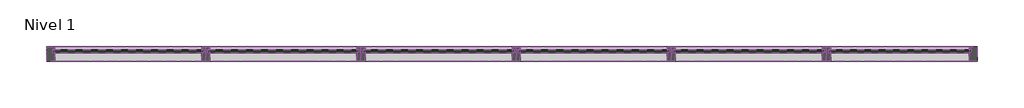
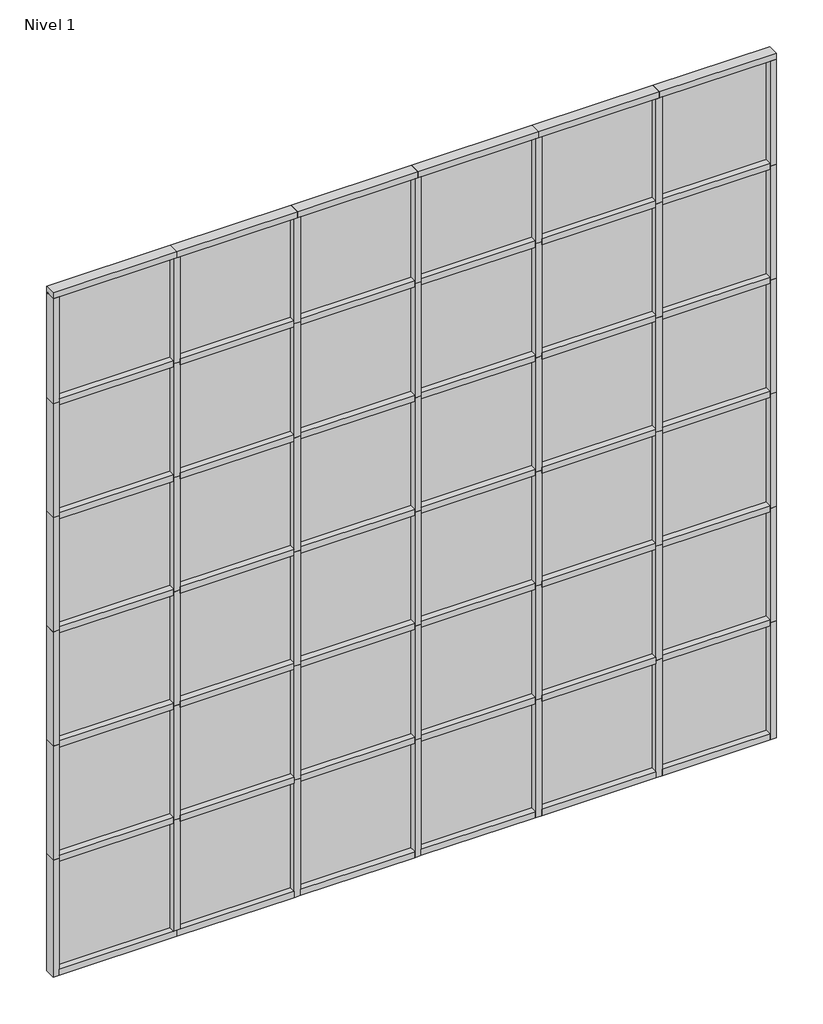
# One storey, part 4 of 6: 84 members, 36 plates.
"""IFC4 building model written with IfcOpenShell, lengths in millimetres."""

from ifc_helpers import new_model, si_unit, origin, place, context, project, spatial, transform, mapped, element, save
from components import montante_rectangular_montante_rectangular_central_30_8_mm_2c331f7a, montante_rectangular_montante_rectangular_central_30_8_mm_c970fd36, montante_rectangular_montante_rectangular_central_30_8_mm_e5800b63, montante_rectangular_montante_rectangular_central_30_8_mm_53c3e57f, montante_rectangular_montante_rectangular_central_30_8_mm_d86f33cf, montante_rectangular_montante_rectangular_central_30_8_mm_2cc1dee6, montante_rectangular_montante_rectangular_extremo_1_30_8_mm_80b4f17c, montante_rectangular_montante_rectangular_extremo_1_30_8_mm_140b2925, montante_rectangular_montante_rectangular_extremo_1_30_8_mm_5074caf2, montante_rectangular_montante_rectangular_extremo_1_30_8_mm_62ab01bd, montante_rectangular_montante_rectangular_extremo_1_30_8_mm_7b62097b, montante_rectangular_montante_rectangular_extremo_1_30_8_mm_4f2bc4b4, plate_e0fb009f, plate_7c9cb06b, plate_31a977c4, plate_dd025fa3

model = new_model("IFC4")

# Units and contexts
model_context = context("Model", 3, world=origin())
ifc_project = project(units=[si_unit("LENGTHUNIT", "METRE", prefix="MILLI")], contexts=[model_context])

# Site, building, storey
site = spatial("IfcSite", under=ifc_project)
building = spatial("IfcBuilding", under=site)
storey = spatial("IfcBuildingStorey", under=building, Name="Nivel 1", Elevation=0.0)

# Members
placement = place(None, origin())
montante_rectangular_montante_rectangular_central_30_8_mm_shape = montante_rectangular_montante_rectangular_central_30_8_mm_2c331f7a(model_context)
element("IfcMember", 1, ObjectType="Montante rectangular : Montante rectangular - Central_30.8 mm", at=placement, inside=storey, context=model_context, shape_type="MappedRepresentation", body=[
    mapped(montante_rectangular_montante_rectangular_central_30_8_mm_shape, transform((-11117.5480244, 4524.4730809, 1540.0), x_axis=(0.0, 0.0, 1.0), y_axis=(0.0, -1.0, 0.0), z_axis=(1.0, 0.0, 0.0))),
])
element("IfcMember", 2, ObjectType="Montante rectangular : Montante rectangular - Central_30.8 mm", at=placement, inside=storey, context=model_context, shape_type="MappedRepresentation", body=[
    mapped(montante_rectangular_montante_rectangular_central_30_8_mm_shape, transform((-9617.5480244, 4524.4730809, 1540.0), x_axis=(0.0, 0.0, 1.0), y_axis=(0.0, -1.0, 0.0), z_axis=(1.0, 0.0, 0.0))),
])
element("IfcMember", 3, ObjectType="Montante rectangular : Montante rectangular - Central_30.8 mm", at=placement, inside=storey, context=model_context, shape_type="MappedRepresentation", body=[
    mapped(montante_rectangular_montante_rectangular_central_30_8_mm_shape, transform((-8117.5480244, 4524.4730809, 1540.0), x_axis=(0.0, 0.0, 1.0), y_axis=(0.0, -1.0, 0.0), z_axis=(1.0, 0.0, 0.0))),
])
element("IfcMember", 4, ObjectType="Montante rectangular : Montante rectangular - Central_30.8 mm", at=placement, inside=storey, context=model_context, shape_type="MappedRepresentation", body=[
    mapped(montante_rectangular_montante_rectangular_central_30_8_mm_shape, transform((-6617.5480244, 4524.4730809, 1540.0), x_axis=(0.0, 0.0, 1.0), y_axis=(0.0, -1.0, 0.0), z_axis=(1.0, 0.0, 0.0))),
])
element("IfcMember", 5, ObjectType="Montante rectangular : Montante rectangular - Central_30.8 mm", at=placement, inside=storey, context=model_context, shape_type="MappedRepresentation", body=[
    mapped(montante_rectangular_montante_rectangular_central_30_8_mm_shape, transform((-5117.5480244, 4524.4730809, 1540.0), x_axis=(0.0, 0.0, 1.0), y_axis=(0.0, -1.0, 0.0), z_axis=(1.0, 0.0, 0.0))),
])
element("IfcMember", 6, ObjectType="Montante rectangular : Montante rectangular - Central_30.8 mm", at=placement, inside=storey, context=model_context, shape_type="MappedRepresentation", body=[
    mapped(montante_rectangular_montante_rectangular_central_30_8_mm_shape, transform((-11117.5480244, 4524.4730809, 3040.0), x_axis=(0.0, 0.0, 1.0), y_axis=(0.0, -1.0, 0.0), z_axis=(1.0, 0.0, 0.0))),
])
element("IfcMember", 7, ObjectType="Montante rectangular : Montante rectangular - Central_30.8 mm", at=placement, inside=storey, context=model_context, shape_type="MappedRepresentation", body=[
    mapped(montante_rectangular_montante_rectangular_central_30_8_mm_shape, transform((-9617.5480244, 4524.4730809, 3040.0), x_axis=(0.0, 0.0, 1.0), y_axis=(0.0, -1.0, 0.0), z_axis=(1.0, 0.0, 0.0))),
])
element("IfcMember", 8, ObjectType="Montante rectangular : Montante rectangular - Central_30.8 mm", at=placement, inside=storey, context=model_context, shape_type="MappedRepresentation", body=[
    mapped(montante_rectangular_montante_rectangular_central_30_8_mm_shape, transform((-8117.5480244, 4524.4730809, 3040.0), x_axis=(0.0, 0.0, 1.0), y_axis=(0.0, -1.0, 0.0), z_axis=(1.0, 0.0, 0.0))),
])
element("IfcMember", 9, ObjectType="Montante rectangular : Montante rectangular - Central_30.8 mm", at=placement, inside=storey, context=model_context, shape_type="MappedRepresentation", body=[
    mapped(montante_rectangular_montante_rectangular_central_30_8_mm_shape, transform((-6617.5480244, 4524.4730809, 3040.0), x_axis=(0.0, 0.0, 1.0), y_axis=(0.0, -1.0, 0.0), z_axis=(1.0, 0.0, 0.0))),
])
element("IfcMember", 10, ObjectType="Montante rectangular : Montante rectangular - Central_30.8 mm", at=placement, inside=storey, context=model_context, shape_type="MappedRepresentation", body=[
    mapped(montante_rectangular_montante_rectangular_central_30_8_mm_shape, transform((-5117.5480244, 4524.4730809, 3040.0), x_axis=(0.0, 0.0, 1.0), y_axis=(0.0, -1.0, 0.0), z_axis=(1.0, 0.0, 0.0))),
])
element("IfcMember", 11, ObjectType="Montante rectangular : Montante rectangular - Central_30.8 mm", at=placement, inside=storey, context=model_context, shape_type="MappedRepresentation", body=[
    mapped(montante_rectangular_montante_rectangular_central_30_8_mm_shape, transform((-11117.5480244, 4524.4730809, 4540.0), x_axis=(0.0, 0.0, 1.0), y_axis=(0.0, -1.0, 0.0), z_axis=(1.0, 0.0, 0.0))),
])
element("IfcMember", 12, ObjectType="Montante rectangular : Montante rectangular - Central_30.8 mm", at=placement, inside=storey, context=model_context, shape_type="MappedRepresentation", body=[
    mapped(montante_rectangular_montante_rectangular_central_30_8_mm_shape, transform((-9617.5480244, 4524.4730809, 4540.0), x_axis=(0.0, 0.0, 1.0), y_axis=(0.0, -1.0, 0.0), z_axis=(1.0, 0.0, 0.0))),
])
element("IfcMember", 13, ObjectType="Montante rectangular : Montante rectangular - Central_30.8 mm", at=placement, inside=storey, context=model_context, shape_type="MappedRepresentation", body=[
    mapped(montante_rectangular_montante_rectangular_central_30_8_mm_shape, transform((-8117.5480244, 4524.4730809, 4540.0), x_axis=(0.0, 0.0, 1.0), y_axis=(0.0, -1.0, 0.0), z_axis=(1.0, 0.0, 0.0))),
])
element("IfcMember", 14, ObjectType="Montante rectangular : Montante rectangular - Central_30.8 mm", at=placement, inside=storey, context=model_context, shape_type="MappedRepresentation", body=[
    mapped(montante_rectangular_montante_rectangular_central_30_8_mm_shape, transform((-6617.5480244, 4524.4730809, 4540.0), x_axis=(0.0, 0.0, 1.0), y_axis=(0.0, -1.0, 0.0), z_axis=(1.0, 0.0, 0.0))),
])
element("IfcMember", 15, ObjectType="Montante rectangular : Montante rectangular - Central_30.8 mm", at=placement, inside=storey, context=model_context, shape_type="MappedRepresentation", body=[
    mapped(montante_rectangular_montante_rectangular_central_30_8_mm_shape, transform((-5117.5480244, 4524.4730809, 4540.0), x_axis=(0.0, 0.0, 1.0), y_axis=(0.0, -1.0, 0.0), z_axis=(1.0, 0.0, 0.0))),
])
element("IfcMember", 16, ObjectType="Montante rectangular : Montante rectangular - Central_30.8 mm", at=placement, inside=storey, context=model_context, shape_type="MappedRepresentation", body=[
    mapped(montante_rectangular_montante_rectangular_central_30_8_mm_shape, transform((-11117.5480244, 4524.4730809, 6040.0), x_axis=(0.0, 0.0, 1.0), y_axis=(0.0, -1.0, 0.0), z_axis=(1.0, 0.0, 0.0))),
])
element("IfcMember", 17, ObjectType="Montante rectangular : Montante rectangular - Central_30.8 mm", at=placement, inside=storey, context=model_context, shape_type="MappedRepresentation", body=[
    mapped(montante_rectangular_montante_rectangular_central_30_8_mm_shape, transform((-9617.5480244, 4524.4730809, 6040.0), x_axis=(0.0, 0.0, 1.0), y_axis=(0.0, -1.0, 0.0), z_axis=(1.0, 0.0, 0.0))),
])
element("IfcMember", 18, ObjectType="Montante rectangular : Montante rectangular - Central_30.8 mm", at=placement, inside=storey, context=model_context, shape_type="MappedRepresentation", body=[
    mapped(montante_rectangular_montante_rectangular_central_30_8_mm_shape, transform((-8117.5480244, 4524.4730809, 6040.0), x_axis=(0.0, 0.0, 1.0), y_axis=(0.0, -1.0, 0.0), z_axis=(1.0, 0.0, 0.0))),
])
element("IfcMember", 19, ObjectType="Montante rectangular : Montante rectangular - Central_30.8 mm", at=placement, inside=storey, context=model_context, shape_type="MappedRepresentation", body=[
    mapped(montante_rectangular_montante_rectangular_central_30_8_mm_shape, transform((-6617.5480244, 4524.4730809, 6040.0), x_axis=(0.0, 0.0, 1.0), y_axis=(0.0, -1.0, 0.0), z_axis=(1.0, 0.0, 0.0))),
])
element("IfcMember", 20, ObjectType="Montante rectangular : Montante rectangular - Central_30.8 mm", at=placement, inside=storey, context=model_context, shape_type="MappedRepresentation", body=[
    mapped(montante_rectangular_montante_rectangular_central_30_8_mm_shape, transform((-5117.5480244, 4524.4730809, 6040.0), x_axis=(0.0, 0.0, 1.0), y_axis=(0.0, -1.0, 0.0), z_axis=(1.0, 0.0, 0.0))),
])
element("IfcMember", 21, ObjectType="Montante rectangular : Montante rectangular - Central_30.8 mm", at=placement, inside=storey, context=model_context, shape_type="MappedRepresentation", body=[
    mapped(montante_rectangular_montante_rectangular_central_30_8_mm_shape, transform((-11117.5480244, 4524.4730809, 7540.0), x_axis=(0.0, 0.0, 1.0), y_axis=(0.0, -1.0, 0.0), z_axis=(1.0, 0.0, 0.0))),
])
element("IfcMember", 22, ObjectType="Montante rectangular : Montante rectangular - Central_30.8 mm", at=placement, inside=storey, context=model_context, shape_type="MappedRepresentation", body=[
    mapped(montante_rectangular_montante_rectangular_central_30_8_mm_shape, transform((-9617.5480244, 4524.4730809, 7540.0), x_axis=(0.0, 0.0, 1.0), y_axis=(0.0, -1.0, 0.0), z_axis=(1.0, 0.0, 0.0))),
])
element("IfcMember", 23, ObjectType="Montante rectangular : Montante rectangular - Central_30.8 mm", at=placement, inside=storey, context=model_context, shape_type="MappedRepresentation", body=[
    mapped(montante_rectangular_montante_rectangular_central_30_8_mm_shape, transform((-8117.5480244, 4524.4730809, 7540.0), x_axis=(0.0, 0.0, 1.0), y_axis=(0.0, -1.0, 0.0), z_axis=(1.0, 0.0, 0.0))),
])
element("IfcMember", 24, ObjectType="Montante rectangular : Montante rectangular - Central_30.8 mm", at=placement, inside=storey, context=model_context, shape_type="MappedRepresentation", body=[
    mapped(montante_rectangular_montante_rectangular_central_30_8_mm_shape, transform((-6617.5480244, 4524.4730809, 7540.0), x_axis=(0.0, 0.0, 1.0), y_axis=(0.0, -1.0, 0.0), z_axis=(1.0, 0.0, 0.0))),
])
element("IfcMember", 25, ObjectType="Montante rectangular : Montante rectangular - Central_30.8 mm", at=placement, inside=storey, context=model_context, shape_type="MappedRepresentation", body=[
    mapped(montante_rectangular_montante_rectangular_central_30_8_mm_shape, transform((-5117.5480244, 4524.4730809, 7540.0), x_axis=(0.0, 0.0, 1.0), y_axis=(0.0, -1.0, 0.0), z_axis=(1.0, 0.0, 0.0))),
])
montante_rectangular_montante_rectangular_central_30_8_mm_2_shape = montante_rectangular_montante_rectangular_central_30_8_mm_c970fd36(model_context)
element("IfcMember", 26, ObjectType="Montante rectangular : Montante rectangular - Central_30.8 mm", at=placement, inside=storey, context=model_context, shape_type="MappedRepresentation", body=[
    mapped(montante_rectangular_montante_rectangular_central_30_8_mm_2_shape, transform((-11077.5480244, 4524.4730809, 80.0), x_axis=(1.0, 0.0, 0.0), y_axis=(0.0, -1.0, 0.0), z_axis=(0.0, 0.0, -1.0))),
])
montante_rectangular_montante_rectangular_central_30_8_mm_3_shape = montante_rectangular_montante_rectangular_central_30_8_mm_e5800b63(model_context)
element("IfcMember", 27, ObjectType="Montante rectangular : Montante rectangular - Central_30.8 mm", at=placement, inside=storey, context=model_context, shape_type="MappedRepresentation", body=[
    mapped(montante_rectangular_montante_rectangular_central_30_8_mm_3_shape, transform((-11077.5480244, 4524.4730809, 1540.0), x_axis=(1.0, 0.0, 0.0), y_axis=(0.0, -1.0, 0.0), z_axis=(0.0, 0.0, -1.0))),
])
element("IfcMember", 28, ObjectType="Montante rectangular : Montante rectangular - Central_30.8 mm", at=placement, inside=storey, context=model_context, shape_type="MappedRepresentation", body=[
    mapped(montante_rectangular_montante_rectangular_central_30_8_mm_3_shape, transform((-9577.5480244, 4524.4730809, 1540.0), x_axis=(1.0, 0.0, 0.0), y_axis=(0.0, -1.0, 0.0), z_axis=(0.0, 0.0, -1.0))),
])
element("IfcMember", 29, ObjectType="Montante rectangular : Montante rectangular - Central_30.8 mm", at=placement, inside=storey, context=model_context, shape_type="MappedRepresentation", body=[
    mapped(montante_rectangular_montante_rectangular_central_30_8_mm_3_shape, transform((-8077.5480244, 4524.4730809, 1540.0), x_axis=(1.0, 0.0, 0.0), y_axis=(0.0, -1.0, 0.0), z_axis=(0.0, 0.0, -1.0))),
])
element("IfcMember", 30, ObjectType="Montante rectangular : Montante rectangular - Central_30.8 mm", at=placement, inside=storey, context=model_context, shape_type="MappedRepresentation", body=[
    mapped(montante_rectangular_montante_rectangular_central_30_8_mm_3_shape, transform((-6577.5480244, 4524.4730809, 1540.0), x_axis=(1.0, 0.0, 0.0), y_axis=(0.0, -1.0, 0.0), z_axis=(0.0, 0.0, -1.0))),
])
element("IfcMember", 31, ObjectType="Montante rectangular : Montante rectangular - Central_30.8 mm", at=placement, inside=storey, context=model_context, shape_type="MappedRepresentation", body=[
    mapped(montante_rectangular_montante_rectangular_central_30_8_mm_3_shape, transform((-5077.5480244, 4524.4730809, 1540.0), x_axis=(1.0, 0.0, 0.0), y_axis=(0.0, -1.0, 0.0), z_axis=(0.0, 0.0, -1.0))),
])
element("IfcMember", 32, ObjectType="Montante rectangular : Montante rectangular - Central_30.8 mm", at=placement, inside=storey, context=model_context, shape_type="MappedRepresentation", body=[
    mapped(montante_rectangular_montante_rectangular_central_30_8_mm_3_shape, transform((-11077.5480244, 4524.4730809, 3040.0), x_axis=(1.0, 0.0, 0.0), y_axis=(0.0, -1.0, 0.0), z_axis=(0.0, 0.0, -1.0))),
])
element("IfcMember", 33, ObjectType="Montante rectangular : Montante rectangular - Central_30.8 mm", at=placement, inside=storey, context=model_context, shape_type="MappedRepresentation", body=[
    mapped(montante_rectangular_montante_rectangular_central_30_8_mm_3_shape, transform((-11077.5480244, 4524.4730809, 4540.0), x_axis=(1.0, 0.0, 0.0), y_axis=(0.0, -1.0, 0.0), z_axis=(0.0, 0.0, -1.0))),
])
element("IfcMember", 34, ObjectType="Montante rectangular : Montante rectangular - Central_30.8 mm", at=placement, inside=storey, context=model_context, shape_type="MappedRepresentation", body=[
    mapped(montante_rectangular_montante_rectangular_central_30_8_mm_3_shape, transform((-11077.5480244, 4524.4730809, 6040.0), x_axis=(1.0, 0.0, 0.0), y_axis=(0.0, -1.0, 0.0), z_axis=(0.0, 0.0, -1.0))),
])
element("IfcMember", 35, ObjectType="Montante rectangular : Montante rectangular - Central_30.8 mm", at=placement, inside=storey, context=model_context, shape_type="MappedRepresentation", body=[
    mapped(montante_rectangular_montante_rectangular_central_30_8_mm_3_shape, transform((-9577.5480244, 4524.4730809, 3040.0), x_axis=(1.0, 0.0, 0.0), y_axis=(0.0, -1.0, 0.0), z_axis=(0.0, 0.0, -1.0))),
])
element("IfcMember", 36, ObjectType="Montante rectangular : Montante rectangular - Central_30.8 mm", at=placement, inside=storey, context=model_context, shape_type="MappedRepresentation", body=[
    mapped(montante_rectangular_montante_rectangular_central_30_8_mm_3_shape, transform((-9577.5480244, 4524.4730809, 4540.0), x_axis=(1.0, 0.0, 0.0), y_axis=(0.0, -1.0, 0.0), z_axis=(0.0, 0.0, -1.0))),
])
element("IfcMember", 37, ObjectType="Montante rectangular : Montante rectangular - Central_30.8 mm", at=placement, inside=storey, context=model_context, shape_type="MappedRepresentation", body=[
    mapped(montante_rectangular_montante_rectangular_central_30_8_mm_3_shape, transform((-9577.5480244, 4524.4730809, 6040.0), x_axis=(1.0, 0.0, 0.0), y_axis=(0.0, -1.0, 0.0), z_axis=(0.0, 0.0, -1.0))),
])
element("IfcMember", 38, ObjectType="Montante rectangular : Montante rectangular - Central_30.8 mm", at=placement, inside=storey, context=model_context, shape_type="MappedRepresentation", body=[
    mapped(montante_rectangular_montante_rectangular_central_30_8_mm_3_shape, transform((-8077.5480244, 4524.4730809, 3040.0), x_axis=(1.0, 0.0, 0.0), y_axis=(0.0, -1.0, 0.0), z_axis=(0.0, 0.0, -1.0))),
])
element("IfcMember", 39, ObjectType="Montante rectangular : Montante rectangular - Central_30.8 mm", at=placement, inside=storey, context=model_context, shape_type="MappedRepresentation", body=[
    mapped(montante_rectangular_montante_rectangular_central_30_8_mm_3_shape, transform((-8077.5480244, 4524.4730809, 4540.0), x_axis=(1.0, 0.0, 0.0), y_axis=(0.0, -1.0, 0.0), z_axis=(0.0, 0.0, -1.0))),
])
element("IfcMember", 40, ObjectType="Montante rectangular : Montante rectangular - Central_30.8 mm", at=placement, inside=storey, context=model_context, shape_type="MappedRepresentation", body=[
    mapped(montante_rectangular_montante_rectangular_central_30_8_mm_3_shape, transform((-8077.5480244, 4524.4730809, 6040.0), x_axis=(1.0, 0.0, 0.0), y_axis=(0.0, -1.0, 0.0), z_axis=(0.0, 0.0, -1.0))),
])
element("IfcMember", 41, ObjectType="Montante rectangular : Montante rectangular - Central_30.8 mm", at=placement, inside=storey, context=model_context, shape_type="MappedRepresentation", body=[
    mapped(montante_rectangular_montante_rectangular_central_30_8_mm_3_shape, transform((-6577.5480244, 4524.4730809, 3040.0), x_axis=(1.0, 0.0, 0.0), y_axis=(0.0, -1.0, 0.0), z_axis=(0.0, 0.0, -1.0))),
])
element("IfcMember", 42, ObjectType="Montante rectangular : Montante rectangular - Central_30.8 mm", at=placement, inside=storey, context=model_context, shape_type="MappedRepresentation", body=[
    mapped(montante_rectangular_montante_rectangular_central_30_8_mm_3_shape, transform((-6577.5480244, 4524.4730809, 4540.0), x_axis=(1.0, 0.0, 0.0), y_axis=(0.0, -1.0, 0.0), z_axis=(0.0, 0.0, -1.0))),
])
element("IfcMember", 43, ObjectType="Montante rectangular : Montante rectangular - Central_30.8 mm", at=placement, inside=storey, context=model_context, shape_type="MappedRepresentation", body=[
    mapped(montante_rectangular_montante_rectangular_central_30_8_mm_3_shape, transform((-6577.5480244, 4524.4730809, 6040.0), x_axis=(1.0, 0.0, 0.0), y_axis=(0.0, -1.0, 0.0), z_axis=(0.0, 0.0, -1.0))),
])
element("IfcMember", 44, ObjectType="Montante rectangular : Montante rectangular - Central_30.8 mm", at=placement, inside=storey, context=model_context, shape_type="MappedRepresentation", body=[
    mapped(montante_rectangular_montante_rectangular_central_30_8_mm_3_shape, transform((-5077.5480244, 4524.4730809, 3040.0), x_axis=(1.0, 0.0, 0.0), y_axis=(0.0, -1.0, 0.0), z_axis=(0.0, 0.0, -1.0))),
])
element("IfcMember", 45, ObjectType="Montante rectangular : Montante rectangular - Central_30.8 mm", at=placement, inside=storey, context=model_context, shape_type="MappedRepresentation", body=[
    mapped(montante_rectangular_montante_rectangular_central_30_8_mm_3_shape, transform((-5077.5480244, 4524.4730809, 4540.0), x_axis=(1.0, 0.0, 0.0), y_axis=(0.0, -1.0, 0.0), z_axis=(0.0, 0.0, -1.0))),
])
element("IfcMember", 46, ObjectType="Montante rectangular : Montante rectangular - Central_30.8 mm", at=placement, inside=storey, context=model_context, shape_type="MappedRepresentation", body=[
    mapped(montante_rectangular_montante_rectangular_central_30_8_mm_3_shape, transform((-5077.5480244, 4524.4730809, 6040.0), x_axis=(1.0, 0.0, 0.0), y_axis=(0.0, -1.0, 0.0), z_axis=(0.0, 0.0, -1.0))),
])
montante_rectangular_montante_rectangular_central_30_8_mm_4_shape = montante_rectangular_montante_rectangular_central_30_8_mm_53c3e57f(model_context)
element("IfcMember", 47, ObjectType="Montante rectangular : Montante rectangular - Central_30.8 mm", at=placement, inside=storey, context=model_context, shape_type="MappedRepresentation", body=[
    mapped(montante_rectangular_montante_rectangular_central_30_8_mm_4_shape, transform((-9577.5480244, 4524.4730809, 0.0), x_axis=(1.0, 0.0, 0.0), y_axis=(0.0, -1.0, 0.0), z_axis=(0.0, 0.0, -1.0))),
])
element("IfcMember", 48, ObjectType="Montante rectangular : Montante rectangular - Central_30.8 mm", at=placement, inside=storey, context=model_context, shape_type="MappedRepresentation", body=[
    mapped(montante_rectangular_montante_rectangular_central_30_8_mm_4_shape, transform((-8077.5480244, 4524.4730809, 0.0), x_axis=(1.0, 0.0, 0.0), y_axis=(0.0, -1.0, 0.0), z_axis=(0.0, 0.0, -1.0))),
])
element("IfcMember", 49, ObjectType="Montante rectangular : Montante rectangular - Central_30.8 mm", at=placement, inside=storey, context=model_context, shape_type="MappedRepresentation", body=[
    mapped(montante_rectangular_montante_rectangular_central_30_8_mm_4_shape, transform((-6577.5480244, 4524.4730809, 0.0), x_axis=(1.0, 0.0, 0.0), y_axis=(0.0, -1.0, 0.0), z_axis=(0.0, 0.0, -1.0))),
])
element("IfcMember", 50, ObjectType="Montante rectangular : Montante rectangular - Central_30.8 mm", at=placement, inside=storey, context=model_context, shape_type="MappedRepresentation", body=[
    mapped(montante_rectangular_montante_rectangular_central_30_8_mm_4_shape, transform((-5077.5480244, 4524.4730809, 0.0), x_axis=(1.0, 0.0, 0.0), y_axis=(0.0, -1.0, 0.0), z_axis=(0.0, 0.0, -1.0))),
])
montante_rectangular_montante_rectangular_central_30_8_mm_5_shape = montante_rectangular_montante_rectangular_central_30_8_mm_d86f33cf(model_context)
element("IfcMember", 51, ObjectType="Montante rectangular : Montante rectangular - Central_30.8 mm", at=placement, inside=storey, context=model_context, shape_type="MappedRepresentation", body=[
    mapped(montante_rectangular_montante_rectangular_central_30_8_mm_5_shape, transform((-3697.5480244, 4524.4730809, 1540.0), x_axis=(0.0, 0.0, 1.0), y_axis=(0.0, -1.0, 0.0), z_axis=(1.0, 0.0, 0.0))),
])
element("IfcMember", 52, ObjectType="Montante rectangular : Montante rectangular - Central_30.8 mm", at=placement, inside=storey, context=model_context, shape_type="MappedRepresentation", body=[
    mapped(montante_rectangular_montante_rectangular_central_30_8_mm_5_shape, transform((-3697.5480244, 4524.4730809, 3040.0), x_axis=(0.0, 0.0, 1.0), y_axis=(0.0, -1.0, 0.0), z_axis=(1.0, 0.0, 0.0))),
])
element("IfcMember", 53, ObjectType="Montante rectangular : Montante rectangular - Central_30.8 mm", at=placement, inside=storey, context=model_context, shape_type="MappedRepresentation", body=[
    mapped(montante_rectangular_montante_rectangular_central_30_8_mm_5_shape, transform((-3697.5480244, 4524.4730809, 4540.0), x_axis=(0.0, 0.0, 1.0), y_axis=(0.0, -1.0, 0.0), z_axis=(1.0, 0.0, 0.0))),
])
element("IfcMember", 54, ObjectType="Montante rectangular : Montante rectangular - Central_30.8 mm", at=placement, inside=storey, context=model_context, shape_type="MappedRepresentation", body=[
    mapped(montante_rectangular_montante_rectangular_central_30_8_mm_5_shape, transform((-3697.5480244, 4524.4730809, 6040.0), x_axis=(0.0, 0.0, 1.0), y_axis=(0.0, -1.0, 0.0), z_axis=(1.0, 0.0, 0.0))),
])
element("IfcMember", 55, ObjectType="Montante rectangular : Montante rectangular - Central_30.8 mm", at=placement, inside=storey, context=model_context, shape_type="MappedRepresentation", body=[
    mapped(montante_rectangular_montante_rectangular_central_30_8_mm_5_shape, transform((-3697.5480244, 4524.4730809, 7540.0), x_axis=(0.0, 0.0, 1.0), y_axis=(0.0, -1.0, 0.0), z_axis=(1.0, 0.0, 0.0))),
])
montante_rectangular_montante_rectangular_central_30_8_mm_6_shape = montante_rectangular_montante_rectangular_central_30_8_mm_2cc1dee6(model_context)
element("IfcMember", 56, ObjectType="Montante rectangular : Montante rectangular - Central_30.8 mm", at=placement, inside=storey, context=model_context, shape_type="MappedRepresentation", body=[
    mapped(montante_rectangular_montante_rectangular_central_30_8_mm_6_shape, transform((-11077.5480244, 4524.4730809, 7540.0), x_axis=(1.0, 0.0, 0.0), y_axis=(0.0, -1.0, 0.0), z_axis=(0.0, 0.0, -1.0))),
])
element("IfcMember", 57, ObjectType="Montante rectangular : Montante rectangular - Central_30.8 mm", at=placement, inside=storey, context=model_context, shape_type="MappedRepresentation", body=[
    mapped(montante_rectangular_montante_rectangular_central_30_8_mm_6_shape, transform((-9577.5480244, 4524.4730809, 7540.0), x_axis=(1.0, 0.0, 0.0), y_axis=(0.0, -1.0, 0.0), z_axis=(0.0, 0.0, -1.0))),
])
element("IfcMember", 58, ObjectType="Montante rectangular : Montante rectangular - Central_30.8 mm", at=placement, inside=storey, context=model_context, shape_type="MappedRepresentation", body=[
    mapped(montante_rectangular_montante_rectangular_central_30_8_mm_6_shape, transform((-8077.5480244, 4524.4730809, 7540.0), x_axis=(1.0, 0.0, 0.0), y_axis=(0.0, -1.0, 0.0), z_axis=(0.0, 0.0, -1.0))),
])
element("IfcMember", 59, ObjectType="Montante rectangular : Montante rectangular - Central_30.8 mm", at=placement, inside=storey, context=model_context, shape_type="MappedRepresentation", body=[
    mapped(montante_rectangular_montante_rectangular_central_30_8_mm_6_shape, transform((-6577.5480244, 4524.4730809, 7540.0), x_axis=(1.0, 0.0, 0.0), y_axis=(0.0, -1.0, 0.0), z_axis=(0.0, 0.0, -1.0))),
])
element("IfcMember", 60, ObjectType="Montante rectangular : Montante rectangular - Central_30.8 mm", at=placement, inside=storey, context=model_context, shape_type="MappedRepresentation", body=[
    mapped(montante_rectangular_montante_rectangular_central_30_8_mm_6_shape, transform((-5077.5480244, 4524.4730809, 7540.0), x_axis=(1.0, 0.0, 0.0), y_axis=(0.0, -1.0, 0.0), z_axis=(0.0, 0.0, -1.0))),
])
montante_rectangular_montante_rectangular_extremo_1_30_8_mm_shape = montante_rectangular_montante_rectangular_extremo_1_30_8_mm_80b4f17c(model_context)
element("IfcMember", 61, ObjectType="Montante rectangular : Montante rectangular - Extremo 1_30.8 mm", at=placement, inside=storey, context=model_context, shape_type="MappedRepresentation", body=[
    mapped(montante_rectangular_montante_rectangular_extremo_1_30_8_mm_shape, transform((-12537.5480244, 4524.4730809, 0.0), x_axis=(0.0, 0.0, -1.0), y_axis=(0.0, -1.0, 0.0), z_axis=(-1.0, 0.0, 0.0))),
])
element("IfcMember", 62, ObjectType="Montante rectangular : Montante rectangular - Extremo 1_30.8 mm", at=placement, inside=storey, context=model_context, shape_type="MappedRepresentation", body=[
    mapped(montante_rectangular_montante_rectangular_extremo_1_30_8_mm_shape, transform((-11077.5480244, 4524.4730809, 0.0), x_axis=(0.0, 0.0, -1.0), y_axis=(0.0, -1.0, 0.0), z_axis=(-1.0, 0.0, 0.0))),
])
montante_rectangular_montante_rectangular_extremo_1_30_8_mm_2_shape = montante_rectangular_montante_rectangular_extremo_1_30_8_mm_140b2925(model_context)
element("IfcMember", 63, ObjectType="Montante rectangular : Montante rectangular - Extremo 1_30.8 mm", at=placement, inside=storey, context=model_context, shape_type="MappedRepresentation", body=[
    mapped(montante_rectangular_montante_rectangular_extremo_1_30_8_mm_2_shape, transform((-9537.5480244, 4524.4730809, 0.0), x_axis=(0.0, 0.0, -1.0), y_axis=(0.0, -1.0, 0.0), z_axis=(-1.0, 0.0, 0.0))),
])
element("IfcMember", 64, ObjectType="Montante rectangular : Montante rectangular - Extremo 1_30.8 mm", at=placement, inside=storey, context=model_context, shape_type="MappedRepresentation", body=[
    mapped(montante_rectangular_montante_rectangular_extremo_1_30_8_mm_2_shape, transform((-8037.5480244, 4524.4730809, 0.0), x_axis=(0.0, 0.0, -1.0), y_axis=(0.0, -1.0, 0.0), z_axis=(-1.0, 0.0, 0.0))),
])
element("IfcMember", 65, ObjectType="Montante rectangular : Montante rectangular - Extremo 1_30.8 mm", at=placement, inside=storey, context=model_context, shape_type="MappedRepresentation", body=[
    mapped(montante_rectangular_montante_rectangular_extremo_1_30_8_mm_2_shape, transform((-6537.5480244, 4524.4730809, 0.0), x_axis=(0.0, 0.0, -1.0), y_axis=(0.0, -1.0, 0.0), z_axis=(-1.0, 0.0, 0.0))),
])
montante_rectangular_montante_rectangular_extremo_1_30_8_mm_3_shape = montante_rectangular_montante_rectangular_extremo_1_30_8_mm_5074caf2(model_context)
element("IfcMember", 66, ObjectType="Montante rectangular : Montante rectangular - Extremo 1_30.8 mm", at=placement, inside=storey, context=model_context, shape_type="MappedRepresentation", body=[
    mapped(montante_rectangular_montante_rectangular_extremo_1_30_8_mm_3_shape, transform((-5037.5480244, 4524.4730809, 0.0), x_axis=(0.0, 0.0, -1.0), y_axis=(0.0, -1.0, 0.0), z_axis=(-1.0, 0.0, 0.0))),
])
montante_rectangular_montante_rectangular_extremo_1_30_8_mm_4_shape = montante_rectangular_montante_rectangular_extremo_1_30_8_mm_62ab01bd(model_context)
element("IfcMember", 67, ObjectType="Montante rectangular : Montante rectangular - Extremo 1_30.8 mm", at=placement, inside=storey, context=model_context, shape_type="MappedRepresentation", body=[
    mapped(montante_rectangular_montante_rectangular_extremo_1_30_8_mm_4_shape, transform((-12617.5480244, 4524.4730809, 8920.0), x_axis=(-1.0, 0.0, 0.0), y_axis=(0.0, -1.0, 0.0), z_axis=(0.0, 0.0, 1.0))),
])
montante_rectangular_montante_rectangular_extremo_1_30_8_mm_5_shape = montante_rectangular_montante_rectangular_extremo_1_30_8_mm_7b62097b(model_context)
element("IfcMember", 68, ObjectType="Montante rectangular : Montante rectangular - Extremo 1_30.8 mm", at=placement, inside=storey, context=model_context, shape_type="MappedRepresentation", body=[
    mapped(montante_rectangular_montante_rectangular_extremo_1_30_8_mm_5_shape, transform((-12617.5480244, 4524.4730809, 1540.0), x_axis=(-1.0, 0.0, 0.0), y_axis=(0.0, -1.0, 0.0), z_axis=(0.0, 0.0, 1.0))),
])
montante_rectangular_montante_rectangular_extremo_1_30_8_mm_6_shape = montante_rectangular_montante_rectangular_extremo_1_30_8_mm_4f2bc4b4(model_context)
element("IfcMember", 69, ObjectType="Montante rectangular : Montante rectangular - Extremo 1_30.8 mm", at=placement, inside=storey, context=model_context, shape_type="MappedRepresentation", body=[
    mapped(montante_rectangular_montante_rectangular_extremo_1_30_8_mm_6_shape, transform((-12617.5480244, 4524.4730809, 3040.0), x_axis=(-1.0, 0.0, 0.0), y_axis=(0.0, -1.0, 0.0), z_axis=(0.0, 0.0, 1.0))),
])
element("IfcMember", 70, ObjectType="Montante rectangular : Montante rectangular - Extremo 1_30.8 mm", at=placement, inside=storey, context=model_context, shape_type="MappedRepresentation", body=[
    mapped(montante_rectangular_montante_rectangular_extremo_1_30_8_mm_6_shape, transform((-12617.5480244, 4524.4730809, 4540.0), x_axis=(-1.0, 0.0, 0.0), y_axis=(0.0, -1.0, 0.0), z_axis=(0.0, 0.0, 1.0))),
])
element("IfcMember", 71, ObjectType="Montante rectangular : Montante rectangular - Extremo 1_30.8 mm", at=placement, inside=storey, context=model_context, shape_type="MappedRepresentation", body=[
    mapped(montante_rectangular_montante_rectangular_extremo_1_30_8_mm_6_shape, transform((-12617.5480244, 4524.4730809, 6040.0), x_axis=(-1.0, 0.0, 0.0), y_axis=(0.0, -1.0, 0.0), z_axis=(0.0, 0.0, 1.0))),
])
element("IfcMember", 72, ObjectType="Montante rectangular : Montante rectangular - Extremo 1_30.8 mm", at=placement, inside=storey, context=model_context, shape_type="MappedRepresentation", body=[
    mapped(montante_rectangular_montante_rectangular_extremo_1_30_8_mm_6_shape, transform((-12617.5480244, 4524.4730809, 7540.0), x_axis=(-1.0, 0.0, 0.0), y_axis=(0.0, -1.0, 0.0), z_axis=(0.0, 0.0, 1.0))),
])
element("IfcMember", 73, ObjectType="Montante rectangular : Montante rectangular - Extremo 2_30.8 mm", at=placement, inside=storey, context=model_context, shape_type="MappedRepresentation", body=[
    mapped(montante_rectangular_montante_rectangular_extremo_1_30_8_mm_shape, transform((-3617.5480244, 4524.4730809, 9000.0), x_axis=(0.0, 0.0, 1.0), y_axis=(0.0, -1.0, 0.0), z_axis=(1.0, 0.0, 0.0))),
])
element("IfcMember", 74, ObjectType="Montante rectangular : Montante rectangular - Extremo 2_30.8 mm", at=placement, inside=storey, context=model_context, shape_type="MappedRepresentation", body=[
    mapped(montante_rectangular_montante_rectangular_extremo_1_30_8_mm_5_shape, transform((-11077.5480244, 4524.4730809, 9000.0), x_axis=(0.0, 0.0, 1.0), y_axis=(0.0, -1.0, 0.0), z_axis=(1.0, 0.0, 0.0))),
])
element("IfcMember", 75, ObjectType="Montante rectangular : Montante rectangular - Extremo 2_30.8 mm", at=placement, inside=storey, context=model_context, shape_type="MappedRepresentation", body=[
    mapped(montante_rectangular_montante_rectangular_extremo_1_30_8_mm_6_shape, transform((-9577.5480244, 4524.4730809, 9000.0), x_axis=(0.0, 0.0, 1.0), y_axis=(0.0, -1.0, 0.0), z_axis=(1.0, 0.0, 0.0))),
])
element("IfcMember", 76, ObjectType="Montante rectangular : Montante rectangular - Extremo 2_30.8 mm", at=placement, inside=storey, context=model_context, shape_type="MappedRepresentation", body=[
    mapped(montante_rectangular_montante_rectangular_extremo_1_30_8_mm_6_shape, transform((-8077.5480244, 4524.4730809, 9000.0), x_axis=(0.0, 0.0, 1.0), y_axis=(0.0, -1.0, 0.0), z_axis=(1.0, 0.0, 0.0))),
])
element("IfcMember", 77, ObjectType="Montante rectangular : Montante rectangular - Extremo 2_30.8 mm", at=placement, inside=storey, context=model_context, shape_type="MappedRepresentation", body=[
    mapped(montante_rectangular_montante_rectangular_extremo_1_30_8_mm_6_shape, transform((-6577.5480244, 4524.4730809, 9000.0), x_axis=(0.0, 0.0, 1.0), y_axis=(0.0, -1.0, 0.0), z_axis=(1.0, 0.0, 0.0))),
])
element("IfcMember", 78, ObjectType="Montante rectangular : Montante rectangular - Extremo 2_30.8 mm", at=placement, inside=storey, context=model_context, shape_type="MappedRepresentation", body=[
    mapped(montante_rectangular_montante_rectangular_extremo_1_30_8_mm_6_shape, transform((-5077.5480244, 4524.4730809, 9000.0), x_axis=(0.0, 0.0, 1.0), y_axis=(0.0, -1.0, 0.0), z_axis=(1.0, 0.0, 0.0))),
])
element("IfcMember", 79, ObjectType="Montante rectangular : Montante rectangular - Extremo 2_30.8 mm", at=placement, inside=storey, context=model_context, shape_type="MappedRepresentation", body=[
    mapped(montante_rectangular_montante_rectangular_extremo_1_30_8_mm_5_shape, transform((-3617.5480244, 4524.4730809, 0.0), x_axis=(1.0, 0.0, 0.0), y_axis=(0.0, -1.0, 0.0), z_axis=(0.0, 0.0, -1.0))),
])
element("IfcMember", 80, ObjectType="Montante rectangular : Montante rectangular - Extremo 2_30.8 mm", at=placement, inside=storey, context=model_context, shape_type="MappedRepresentation", body=[
    mapped(montante_rectangular_montante_rectangular_extremo_1_30_8_mm_6_shape, transform((-3617.5480244, 4524.4730809, 1540.0), x_axis=(1.0, 0.0, 0.0), y_axis=(0.0, -1.0, 0.0), z_axis=(0.0, 0.0, -1.0))),
])
element("IfcMember", 81, ObjectType="Montante rectangular : Montante rectangular - Extremo 2_30.8 mm", at=placement, inside=storey, context=model_context, shape_type="MappedRepresentation", body=[
    mapped(montante_rectangular_montante_rectangular_extremo_1_30_8_mm_6_shape, transform((-3617.5480244, 4524.4730809, 3040.0), x_axis=(1.0, 0.0, 0.0), y_axis=(0.0, -1.0, 0.0), z_axis=(0.0, 0.0, -1.0))),
])
element("IfcMember", 82, ObjectType="Montante rectangular : Montante rectangular - Extremo 2_30.8 mm", at=placement, inside=storey, context=model_context, shape_type="MappedRepresentation", body=[
    mapped(montante_rectangular_montante_rectangular_extremo_1_30_8_mm_6_shape, transform((-3617.5480244, 4524.4730809, 4540.0), x_axis=(1.0, 0.0, 0.0), y_axis=(0.0, -1.0, 0.0), z_axis=(0.0, 0.0, -1.0))),
])
element("IfcMember", 83, ObjectType="Montante rectangular : Montante rectangular - Extremo 2_30.8 mm", at=placement, inside=storey, context=model_context, shape_type="MappedRepresentation", body=[
    mapped(montante_rectangular_montante_rectangular_extremo_1_30_8_mm_6_shape, transform((-3617.5480244, 4524.4730809, 6040.0), x_axis=(1.0, 0.0, 0.0), y_axis=(0.0, -1.0, 0.0), z_axis=(0.0, 0.0, -1.0))),
])
element("IfcMember", 84, ObjectType="Montante rectangular : Montante rectangular - Extremo 2_30.8 mm", at=placement, inside=storey, context=model_context, shape_type="MappedRepresentation", body=[
    mapped(montante_rectangular_montante_rectangular_extremo_1_30_8_mm_4_shape, transform((-3617.5480244, 4524.4730809, 7540.0), x_axis=(1.0, 0.0, 0.0), y_axis=(0.0, -1.0, 0.0), z_axis=(0.0, 0.0, -1.0))),
])

# Plates
plate_shape = plate_e0fb009f(model_context)
element("IfcPlate", 85, ObjectType="2014_Panel-Cristal-MC_SGG_COOL-LITE-KNT 155 : CLIMALIT PLUS con COOL LITE KNT 155 F2 6 (16 argon90%) 44.2", at=placement, inside=storey, context=model_context, shape_type="MappedRepresentation", body=[
    mapped(plate_shape, transform((-11827.5480244, 4524.4730809, 80.0), x_axis=(1.0, 0.0, 0.0), y_axis=(0.0, 1.0, 0.0), z_axis=(0.0, 0.0, 1.0))),
])
element("IfcPlate", 86, ObjectType="2014_Panel-Cristal-MC_SGG_COOL-LITE-KNT 155 : CLIMALIT PLUS con COOL LITE KNT 155 F2 6 (16 argon90%) 44.2", at=placement, inside=storey, context=model_context, shape_type="MappedRepresentation", body=[
    mapped(plate_shape, transform((-11827.5480244, 4524.4730809, 1580.0), x_axis=(1.0, 0.0, 0.0), y_axis=(0.0, 1.0, 0.0), z_axis=(0.0, 0.0, 1.0))),
])
element("IfcPlate", 87, ObjectType="2014_Panel-Cristal-MC_SGG_COOL-LITE-KNT 155 : CLIMALIT PLUS con COOL LITE KNT 155 F2 6 (16 argon90%) 44.2", at=placement, inside=storey, context=model_context, shape_type="MappedRepresentation", body=[
    mapped(plate_shape, transform((-11827.5480244, 4524.4730809, 3080.0), x_axis=(1.0, 0.0, 0.0), y_axis=(0.0, 1.0, 0.0), z_axis=(0.0, 0.0, 1.0))),
])
element("IfcPlate", 88, ObjectType="2014_Panel-Cristal-MC_SGG_COOL-LITE-KNT 155 : CLIMALIT PLUS con COOL LITE KNT 155 F2 6 (16 argon90%) 44.2", at=placement, inside=storey, context=model_context, shape_type="MappedRepresentation", body=[
    mapped(plate_shape, transform((-11827.5480244, 4524.4730809, 4580.0), x_axis=(1.0, 0.0, 0.0), y_axis=(0.0, 1.0, 0.0), z_axis=(0.0, 0.0, 1.0))),
])
element("IfcPlate", 89, ObjectType="2014_Panel-Cristal-MC_SGG_COOL-LITE-KNT 155 : CLIMALIT PLUS con COOL LITE KNT 155 F2 6 (16 argon90%) 44.2", at=placement, inside=storey, context=model_context, shape_type="MappedRepresentation", body=[
    mapped(plate_shape, transform((-11827.5480244, 4524.4730809, 6080.0), x_axis=(1.0, 0.0, 0.0), y_axis=(0.0, 1.0, 0.0), z_axis=(0.0, 0.0, 1.0))),
])
element("IfcPlate", 90, ObjectType="2014_Panel-Cristal-MC_SGG_COOL-LITE-KNT 155 : CLIMALIT PLUS con COOL LITE KNT 155 F2 6 (16 argon90%) 44.2", at=placement, inside=storey, context=model_context, shape_type="MappedRepresentation", body=[
    mapped(plate_shape, transform((-10327.5480244, 4524.4730809, 80.0), x_axis=(1.0, 0.0, 0.0), y_axis=(0.0, 1.0, 0.0), z_axis=(0.0, 0.0, 1.0))),
])
element("IfcPlate", 91, ObjectType="2014_Panel-Cristal-MC_SGG_COOL-LITE-KNT 155 : CLIMALIT PLUS con COOL LITE KNT 155 F2 6 (16 argon90%) 44.2", at=placement, inside=storey, context=model_context, shape_type="MappedRepresentation", body=[
    mapped(plate_shape, transform((-10327.5480244, 4524.4730809, 1580.0), x_axis=(1.0, 0.0, 0.0), y_axis=(0.0, 1.0, 0.0), z_axis=(0.0, 0.0, 1.0))),
])
element("IfcPlate", 92, ObjectType="2014_Panel-Cristal-MC_SGG_COOL-LITE-KNT 155 : CLIMALIT PLUS con COOL LITE KNT 155 F2 6 (16 argon90%) 44.2", at=placement, inside=storey, context=model_context, shape_type="MappedRepresentation", body=[
    mapped(plate_shape, transform((-10327.5480244, 4524.4730809, 3080.0), x_axis=(1.0, 0.0, 0.0), y_axis=(0.0, 1.0, 0.0), z_axis=(0.0, 0.0, 1.0))),
])
element("IfcPlate", 93, ObjectType="2014_Panel-Cristal-MC_SGG_COOL-LITE-KNT 155 : CLIMALIT PLUS con COOL LITE KNT 155 F2 6 (16 argon90%) 44.2", at=placement, inside=storey, context=model_context, shape_type="MappedRepresentation", body=[
    mapped(plate_shape, transform((-10327.5480244, 4524.4730809, 4580.0), x_axis=(1.0, 0.0, 0.0), y_axis=(0.0, 1.0, 0.0), z_axis=(0.0, 0.0, 1.0))),
])
element("IfcPlate", 94, ObjectType="2014_Panel-Cristal-MC_SGG_COOL-LITE-KNT 155 : CLIMALIT PLUS con COOL LITE KNT 155 F2 6 (16 argon90%) 44.2", at=placement, inside=storey, context=model_context, shape_type="MappedRepresentation", body=[
    mapped(plate_shape, transform((-10327.5480244, 4524.4730809, 6080.0), x_axis=(1.0, 0.0, 0.0), y_axis=(0.0, 1.0, 0.0), z_axis=(0.0, 0.0, 1.0))),
])
element("IfcPlate", 95, ObjectType="2014_Panel-Cristal-MC_SGG_COOL-LITE-KNT 155 : CLIMALIT PLUS con COOL LITE KNT 155 F2 6 (16 argon90%) 44.2", at=placement, inside=storey, context=model_context, shape_type="MappedRepresentation", body=[
    mapped(plate_shape, transform((-8827.5480244, 4524.4730809, 80.0), x_axis=(1.0, 0.0, 0.0), y_axis=(0.0, 1.0, 0.0), z_axis=(0.0, 0.0, 1.0))),
])
element("IfcPlate", 96, ObjectType="2014_Panel-Cristal-MC_SGG_COOL-LITE-KNT 155 : CLIMALIT PLUS con COOL LITE KNT 155 F2 6 (16 argon90%) 44.2", at=placement, inside=storey, context=model_context, shape_type="MappedRepresentation", body=[
    mapped(plate_shape, transform((-8827.5480244, 4524.4730809, 1580.0), x_axis=(1.0, 0.0, 0.0), y_axis=(0.0, 1.0, 0.0), z_axis=(0.0, 0.0, 1.0))),
])
element("IfcPlate", 97, ObjectType="2014_Panel-Cristal-MC_SGG_COOL-LITE-KNT 155 : CLIMALIT PLUS con COOL LITE KNT 155 F2 6 (16 argon90%) 44.2", at=placement, inside=storey, context=model_context, shape_type="MappedRepresentation", body=[
    mapped(plate_shape, transform((-8827.5480244, 4524.4730809, 3080.0), x_axis=(1.0, 0.0, 0.0), y_axis=(0.0, 1.0, 0.0), z_axis=(0.0, 0.0, 1.0))),
])
element("IfcPlate", 98, ObjectType="2014_Panel-Cristal-MC_SGG_COOL-LITE-KNT 155 : CLIMALIT PLUS con COOL LITE KNT 155 F2 6 (16 argon90%) 44.2", at=placement, inside=storey, context=model_context, shape_type="MappedRepresentation", body=[
    mapped(plate_shape, transform((-8827.5480244, 4524.4730809, 4580.0), x_axis=(1.0, 0.0, 0.0), y_axis=(0.0, 1.0, 0.0), z_axis=(0.0, 0.0, 1.0))),
])
element("IfcPlate", 99, ObjectType="2014_Panel-Cristal-MC_SGG_COOL-LITE-KNT 155 : CLIMALIT PLUS con COOL LITE KNT 155 F2 6 (16 argon90%) 44.2", at=placement, inside=storey, context=model_context, shape_type="MappedRepresentation", body=[
    mapped(plate_shape, transform((-8827.5480244, 4524.4730809, 6080.0), x_axis=(1.0, 0.0, 0.0), y_axis=(0.0, 1.0, 0.0), z_axis=(0.0, 0.0, 1.0))),
])
element("IfcPlate", 100, ObjectType="2014_Panel-Cristal-MC_SGG_COOL-LITE-KNT 155 : CLIMALIT PLUS con COOL LITE KNT 155 F2 6 (16 argon90%) 44.2", at=placement, inside=storey, context=model_context, shape_type="MappedRepresentation", body=[
    mapped(plate_shape, transform((-7327.5480244, 4524.4730809, 80.0), x_axis=(1.0, 0.0, 0.0), y_axis=(0.0, 1.0, 0.0), z_axis=(0.0, 0.0, 1.0))),
])
element("IfcPlate", 101, ObjectType="2014_Panel-Cristal-MC_SGG_COOL-LITE-KNT 155 : CLIMALIT PLUS con COOL LITE KNT 155 F2 6 (16 argon90%) 44.2", at=placement, inside=storey, context=model_context, shape_type="MappedRepresentation", body=[
    mapped(plate_shape, transform((-7327.5480244, 4524.4730809, 1580.0), x_axis=(1.0, 0.0, 0.0), y_axis=(0.0, 1.0, 0.0), z_axis=(0.0, 0.0, 1.0))),
])
element("IfcPlate", 102, ObjectType="2014_Panel-Cristal-MC_SGG_COOL-LITE-KNT 155 : CLIMALIT PLUS con COOL LITE KNT 155 F2 6 (16 argon90%) 44.2", at=placement, inside=storey, context=model_context, shape_type="MappedRepresentation", body=[
    mapped(plate_shape, transform((-7327.5480244, 4524.4730809, 3080.0), x_axis=(1.0, 0.0, 0.0), y_axis=(0.0, 1.0, 0.0), z_axis=(0.0, 0.0, 1.0))),
])
element("IfcPlate", 103, ObjectType="2014_Panel-Cristal-MC_SGG_COOL-LITE-KNT 155 : CLIMALIT PLUS con COOL LITE KNT 155 F2 6 (16 argon90%) 44.2", at=placement, inside=storey, context=model_context, shape_type="MappedRepresentation", body=[
    mapped(plate_shape, transform((-7327.5480244, 4524.4730809, 4580.0), x_axis=(1.0, 0.0, 0.0), y_axis=(0.0, 1.0, 0.0), z_axis=(0.0, 0.0, 1.0))),
])
element("IfcPlate", 104, ObjectType="2014_Panel-Cristal-MC_SGG_COOL-LITE-KNT 155 : CLIMALIT PLUS con COOL LITE KNT 155 F2 6 (16 argon90%) 44.2", at=placement, inside=storey, context=model_context, shape_type="MappedRepresentation", body=[
    mapped(plate_shape, transform((-7327.5480244, 4524.4730809, 6080.0), x_axis=(1.0, 0.0, 0.0), y_axis=(0.0, 1.0, 0.0), z_axis=(0.0, 0.0, 1.0))),
])
element("IfcPlate", 105, ObjectType="2014_Panel-Cristal-MC_SGG_COOL-LITE-KNT 155 : CLIMALIT PLUS con COOL LITE KNT 155 F2 6 (16 argon90%) 44.2", at=placement, inside=storey, context=model_context, shape_type="MappedRepresentation", body=[
    mapped(plate_shape, transform((-5827.5480244, 4524.4730809, 80.0), x_axis=(1.0, 0.0, 0.0), y_axis=(0.0, 1.0, 0.0), z_axis=(0.0, 0.0, 1.0))),
])
element("IfcPlate", 106, ObjectType="2014_Panel-Cristal-MC_SGG_COOL-LITE-KNT 155 : CLIMALIT PLUS con COOL LITE KNT 155 F2 6 (16 argon90%) 44.2", at=placement, inside=storey, context=model_context, shape_type="MappedRepresentation", body=[
    mapped(plate_shape, transform((-5827.5480244, 4524.4730809, 1580.0), x_axis=(1.0, 0.0, 0.0), y_axis=(0.0, 1.0, 0.0), z_axis=(0.0, 0.0, 1.0))),
])
element("IfcPlate", 107, ObjectType="2014_Panel-Cristal-MC_SGG_COOL-LITE-KNT 155 : CLIMALIT PLUS con COOL LITE KNT 155 F2 6 (16 argon90%) 44.2", at=placement, inside=storey, context=model_context, shape_type="MappedRepresentation", body=[
    mapped(plate_shape, transform((-5827.5480244, 4524.4730809, 3080.0), x_axis=(1.0, 0.0, 0.0), y_axis=(0.0, 1.0, 0.0), z_axis=(0.0, 0.0, 1.0))),
])
element("IfcPlate", 108, ObjectType="2014_Panel-Cristal-MC_SGG_COOL-LITE-KNT 155 : CLIMALIT PLUS con COOL LITE KNT 155 F2 6 (16 argon90%) 44.2", at=placement, inside=storey, context=model_context, shape_type="MappedRepresentation", body=[
    mapped(plate_shape, transform((-5827.5480244, 4524.4730809, 4580.0), x_axis=(1.0, 0.0, 0.0), y_axis=(0.0, 1.0, 0.0), z_axis=(0.0, 0.0, 1.0))),
])
element("IfcPlate", 109, ObjectType="2014_Panel-Cristal-MC_SGG_COOL-LITE-KNT 155 : CLIMALIT PLUS con COOL LITE KNT 155 F2 6 (16 argon90%) 44.2", at=placement, inside=storey, context=model_context, shape_type="MappedRepresentation", body=[
    mapped(plate_shape, transform((-5827.5480244, 4524.4730809, 6080.0), x_axis=(1.0, 0.0, 0.0), y_axis=(0.0, 1.0, 0.0), z_axis=(0.0, 0.0, 1.0))),
])
plate_2_shape = plate_7c9cb06b(model_context)
element("IfcPlate", 110, ObjectType="2014_Panel-Cristal-MC_SGG_COOL-LITE-KNT 155 : CLIMALIT PLUS con COOL LITE KNT 155 F2 6 (16 argon90%) 44.2", at=placement, inside=storey, context=model_context, shape_type="MappedRepresentation", body=[
    mapped(plate_2_shape, transform((-11827.5480244, 4524.4730809, 7580.0), x_axis=(1.0, 0.0, 0.0), y_axis=(0.0, 1.0, 0.0), z_axis=(0.0, 0.0, 1.0))),
])
element("IfcPlate", 111, ObjectType="2014_Panel-Cristal-MC_SGG_COOL-LITE-KNT 155 : CLIMALIT PLUS con COOL LITE KNT 155 F2 6 (16 argon90%) 44.2", at=placement, inside=storey, context=model_context, shape_type="MappedRepresentation", body=[
    mapped(plate_2_shape, transform((-10327.5480244, 4524.4730809, 7580.0), x_axis=(1.0, 0.0, 0.0), y_axis=(0.0, 1.0, 0.0), z_axis=(0.0, 0.0, 1.0))),
])
element("IfcPlate", 112, ObjectType="2014_Panel-Cristal-MC_SGG_COOL-LITE-KNT 155 : CLIMALIT PLUS con COOL LITE KNT 155 F2 6 (16 argon90%) 44.2", at=placement, inside=storey, context=model_context, shape_type="MappedRepresentation", body=[
    mapped(plate_2_shape, transform((-8827.5480244, 4524.4730809, 7580.0), x_axis=(1.0, 0.0, 0.0), y_axis=(0.0, 1.0, 0.0), z_axis=(0.0, 0.0, 1.0))),
])
element("IfcPlate", 113, ObjectType="2014_Panel-Cristal-MC_SGG_COOL-LITE-KNT 155 : CLIMALIT PLUS con COOL LITE KNT 155 F2 6 (16 argon90%) 44.2", at=placement, inside=storey, context=model_context, shape_type="MappedRepresentation", body=[
    mapped(plate_2_shape, transform((-7327.5480244, 4524.4730809, 7580.0), x_axis=(1.0, 0.0, 0.0), y_axis=(0.0, 1.0, 0.0), z_axis=(0.0, 0.0, 1.0))),
])
element("IfcPlate", 114, ObjectType="2014_Panel-Cristal-MC_SGG_COOL-LITE-KNT 155 : CLIMALIT PLUS con COOL LITE KNT 155 F2 6 (16 argon90%) 44.2", at=placement, inside=storey, context=model_context, shape_type="MappedRepresentation", body=[
    mapped(plate_2_shape, transform((-5827.5480244, 4524.4730809, 7580.0), x_axis=(1.0, 0.0, 0.0), y_axis=(0.0, 1.0, 0.0), z_axis=(0.0, 0.0, 1.0))),
])
plate_3_shape = plate_31a977c4(model_context)
element("IfcPlate", 115, ObjectType="2014_Panel-Cristal-MC_SGG_COOL-LITE-KNT 155 : CLIMALIT PLUS con COOL LITE KNT 155 F2 6 (16 argon90%) 44.2", at=placement, inside=storey, context=model_context, shape_type="MappedRepresentation", body=[
    mapped(plate_3_shape, transform((-4367.5480244, 4524.4730809, 80.0), x_axis=(1.0, 0.0, 0.0), y_axis=(0.0, 1.0, 0.0), z_axis=(0.0, 0.0, 1.0))),
])
element("IfcPlate", 116, ObjectType="2014_Panel-Cristal-MC_SGG_COOL-LITE-KNT 155 : CLIMALIT PLUS con COOL LITE KNT 155 F2 6 (16 argon90%) 44.2", at=placement, inside=storey, context=model_context, shape_type="MappedRepresentation", body=[
    mapped(plate_3_shape, transform((-4367.5480244, 4524.4730809, 1580.0), x_axis=(1.0, 0.0, 0.0), y_axis=(0.0, 1.0, 0.0), z_axis=(0.0, 0.0, 1.0))),
])
element("IfcPlate", 117, ObjectType="2014_Panel-Cristal-MC_SGG_COOL-LITE-KNT 155 : CLIMALIT PLUS con COOL LITE KNT 155 F2 6 (16 argon90%) 44.2", at=placement, inside=storey, context=model_context, shape_type="MappedRepresentation", body=[
    mapped(plate_3_shape, transform((-4367.5480244, 4524.4730809, 3080.0), x_axis=(1.0, 0.0, 0.0), y_axis=(0.0, 1.0, 0.0), z_axis=(0.0, 0.0, 1.0))),
])
element("IfcPlate", 118, ObjectType="2014_Panel-Cristal-MC_SGG_COOL-LITE-KNT 155 : CLIMALIT PLUS con COOL LITE KNT 155 F2 6 (16 argon90%) 44.2", at=placement, inside=storey, context=model_context, shape_type="MappedRepresentation", body=[
    mapped(plate_3_shape, transform((-4367.5480244, 4524.4730809, 4580.0), x_axis=(1.0, 0.0, 0.0), y_axis=(0.0, 1.0, 0.0), z_axis=(0.0, 0.0, 1.0))),
])
element("IfcPlate", 119, ObjectType="2014_Panel-Cristal-MC_SGG_COOL-LITE-KNT 155 : CLIMALIT PLUS con COOL LITE KNT 155 F2 6 (16 argon90%) 44.2", at=placement, inside=storey, context=model_context, shape_type="MappedRepresentation", body=[
    mapped(plate_3_shape, transform((-4367.5480244, 4524.4730809, 6080.0), x_axis=(1.0, 0.0, 0.0), y_axis=(0.0, 1.0, 0.0), z_axis=(0.0, 0.0, 1.0))),
])
plate_4_shape = plate_dd025fa3(model_context)
element("IfcPlate", 120, ObjectType="2014_Panel-Cristal-MC_SGG_COOL-LITE-KNT 155 : CLIMALIT PLUS con COOL LITE KNT 155 F2 6 (16 argon90%) 44.2", at=placement, inside=storey, context=model_context, shape_type="MappedRepresentation", body=[
    mapped(plate_4_shape, transform((-4367.5480244, 4524.4730809, 7580.0), x_axis=(1.0, 0.0, 0.0), y_axis=(0.0, 1.0, 0.0), z_axis=(0.0, 0.0, 1.0))),
])

save(model, "model.ifc")
